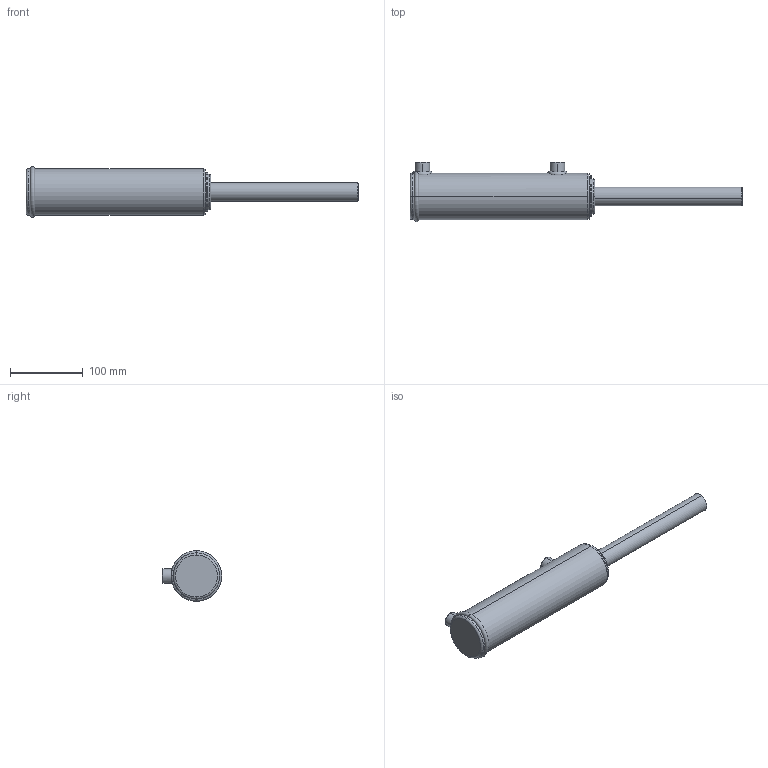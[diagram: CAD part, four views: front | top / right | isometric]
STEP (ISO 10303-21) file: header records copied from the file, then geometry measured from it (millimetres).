
FILE_DESCRIPTION (( 'STEP AP203' ), '1' );
FILE_NAME ('BL200100x152 (6) extended.STEP', '2014-11-23T20:31:23', ( '' ), ( '' ), 'SwSTEP 2.0', 'SolidWorks 2014', '' );
FILE_SCHEMA (( 'CONFIG_CONTROL_DESIGN' ));
Length unit declared in the file: millimetre
Products named in the file (3): BL body 2_2x6; Spare_2x6; BL200100x152 (6) extended
Assembly tree (2 placements, depth 2):
  BL200100x152 (6) extended
    BL body 2_2x6
    Spare_2x6
Bounding box: 455 x 81.5 x 69.5 mm (x, y, z)
Volume: 826730.5 mm3; surface area: 105905.8 mm2
Topology: 2 solids, 2 shells, 83 faces, 192 edges, 118 vertices
Faces by surface type: cylinder 31, plane 20, torus 17, cone 8, bspline 7
Entity records: 4855 total; most frequent: CARTESIAN_POINT 2688, DIRECTION 416, ORIENTED_EDGE 376, EDGE_CURVE 188, AXIS2_PLACEMENT_3D 179, VERTEX_POINT 118, CIRCLE 98, EDGE_LOOP 96
